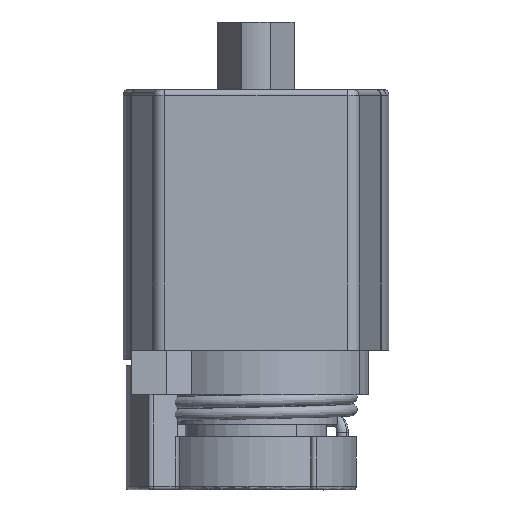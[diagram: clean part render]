
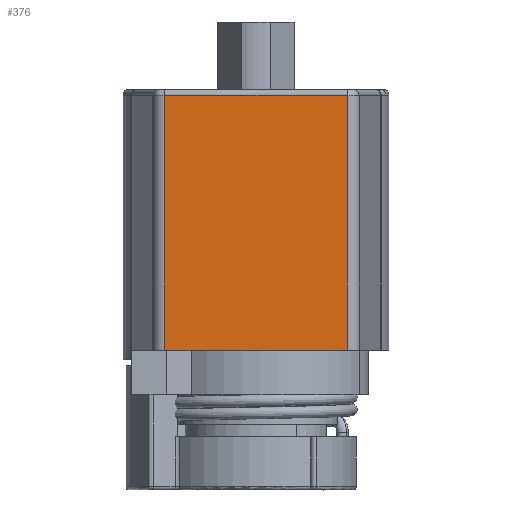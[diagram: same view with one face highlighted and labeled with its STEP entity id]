
A CAD part, front view. The second image highlights one B-rep face of the part: STEP entity #376.
In plain terms, the highlighted planar face has unit normal (0, -1, 0).
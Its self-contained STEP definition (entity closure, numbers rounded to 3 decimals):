
#376=ADVANCED_FACE('',(#935),#936,.T.);
#935=FACE_OUTER_BOUND('',#1787,.T.);
#936=PLANE('',#1788);
#1787=EDGE_LOOP('',(#5228,#5229,#5230,#5231));
#1788=AXIS2_PLACEMENT_3D('',#5232,#5233,#5234);
#5228=ORIENTED_EDGE('',*,*,#7256,.T.);
#5229=ORIENTED_EDGE('',*,*,#7257,.T.);
#5230=ORIENTED_EDGE('',*,*,#7195,.T.);
#5231=ORIENTED_EDGE('',*,*,#7258,.T.);
#5232=CARTESIAN_POINT('',(32.811,24.336,17.999));
#5233=DIRECTION('',(0.,-1.0,0.0));
#5234=DIRECTION('',(0.0,0.0,-1.0));
#7195=EDGE_CURVE('',#8284,#8288,#8289,.T.);
#7256=EDGE_CURVE('',#8374,#8375,#8376,.T.);
#7257=EDGE_CURVE('',#8375,#8284,#8377,.T.);
#7258=EDGE_CURVE('',#8288,#8374,#8378,.T.);
#8284=VERTEX_POINT('',#10298);
#8288=VERTEX_POINT('',#10302);
#8289=LINE('',#10303,#10304);
#8374=VERTEX_POINT('',#10411);
#8375=VERTEX_POINT('',#10412);
#8376=LINE('',#10413,#10414);
#8377=LINE('',#10415,#10416);
#8378=LINE('',#10417,#10418);
#10298=CARTESIAN_POINT('',(40.518,24.336,39.499));
#10302=CARTESIAN_POINT('',(25.105,24.336,39.499));
#10303=CARTESIAN_POINT('',(40.518,24.336,39.499));
#10304=VECTOR('',#13046,10.0);
#10411=CARTESIAN_POINT('',(25.105,24.336,17.999));
#10412=CARTESIAN_POINT('',(40.518,24.336,17.999));
#10413=CARTESIAN_POINT('',(25.105,24.336,17.999));
#10414=VECTOR('',#13129,10.0);
#10415=CARTESIAN_POINT('',(40.518,24.336,17.999));
#10416=VECTOR('',#13130,10.0);
#10417=CARTESIAN_POINT('',(25.105,24.336,39.499));
#10418=VECTOR('',#13131,10.0);
#13046=DIRECTION('',(-1.0,0.,0.0));
#13129=DIRECTION('',(1.0,0.,0.0));
#13130=DIRECTION('',(0.,0.,1.0));
#13131=DIRECTION('',(0.,0.,-1.0));
